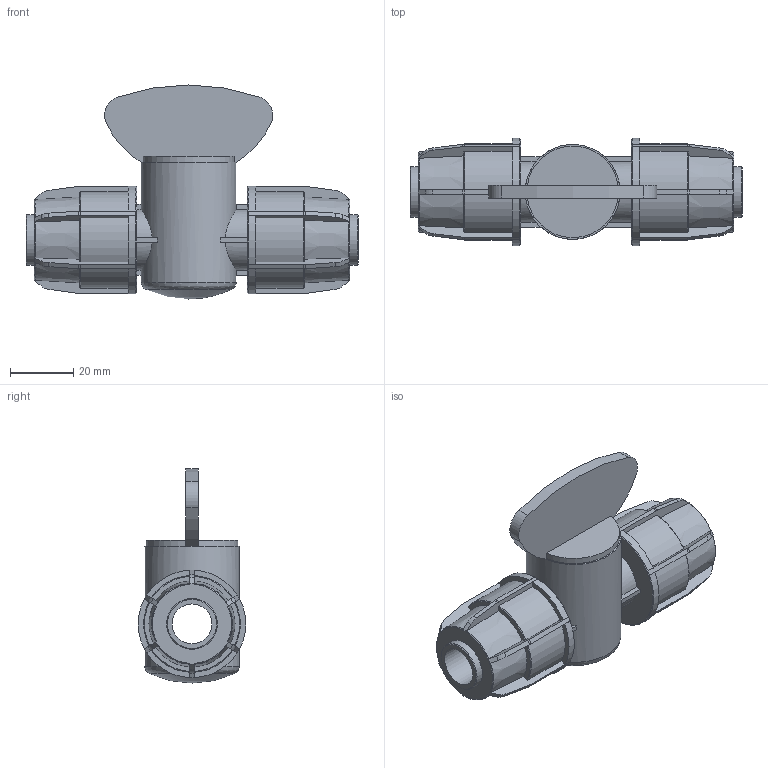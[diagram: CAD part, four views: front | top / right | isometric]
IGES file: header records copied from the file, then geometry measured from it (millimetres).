
Global section: file name: 03017016.ipt; native system: Autodesk Inventor 2015; preprocessor: unknown; author: KIM; date: 20180617.111935; units: millimetre
Bounding box: 105 x 34 x 67.7 mm (x, y, z)
Volume: 68751.4 mm3; surface area: 21986.8 mm2
Topology: 1 solids, 1 shells, 255 faces, 740 edges, 491 vertices
Faces by surface type: plane 136, cylinder 66, cone 50, revolution 2, sphere 1
Full cylindrical faces by diameter (mm): 16 x2, 30 x1
